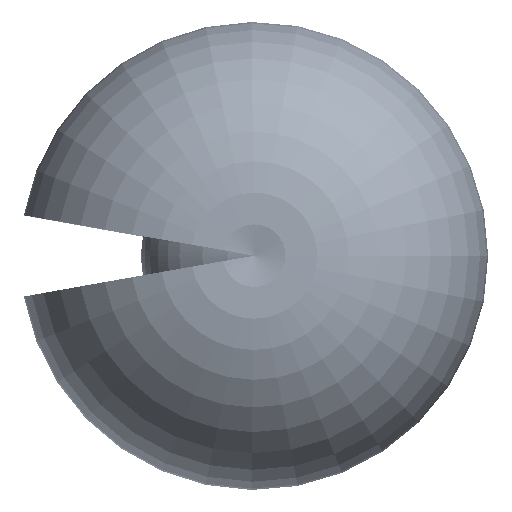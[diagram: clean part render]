
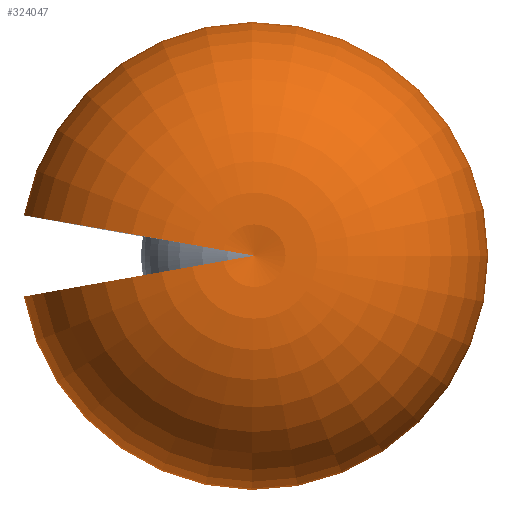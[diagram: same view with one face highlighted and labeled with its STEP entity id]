
A CAD part, top view. The second image highlights one B-rep face of the part: STEP entity #324047.
In plain terms, the highlighted toroidal (fillet/blend) face has major radius 690 mm and minor radius 2815.01 mm.
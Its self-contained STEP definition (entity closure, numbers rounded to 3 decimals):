
#3546 = VERTEX_POINT ( 'NONE', #183626 ) ;
#36858 = CIRCLE ( 'NONE', #200007, 1652.79 ) ;
#37050 = CARTESIAN_POINT ( 'NONE',  ( -679.517, -119.817, 530. ) ) ;
#37789 = AXIS2_PLACEMENT_3D ( 'NONE', #37050, #41858, #260671 ) ;
#41858 = DIRECTION ( 'NONE',  ( -0.174, 0.985, 0. ) ) ;
#52044 = DIRECTION ( 'NONE',  ( -1., 0., 0. ) ) ;
#58829 = DIRECTION ( 'NONE',  ( 0., 0., -1. ) ) ;
#83794 = DIRECTION ( 'NONE',  ( 0., 0., -1. ) ) ;
#135766 = EDGE_CURVE ( 'NONE', #195172, #447123, #36858, .T. ) ;
#183626 = CARTESIAN_POINT ( 'NONE',  ( 0., 0., 3259.135 ) ) ;
#184467 = EDGE_LOOP ( 'NONE', ( #260696, #438405, #246665 ) ) ;
#195172 = VERTEX_POINT ( 'NONE', #422356 ) ;
#200007 = AXIS2_PLACEMENT_3D ( 'NONE', #421617, #83794, #52044 ) ;
#204768 = CARTESIAN_POINT ( 'NONE',  ( 0., 0., 530. ) ) ;
#230892 = DIRECTION ( 'NONE',  ( 0.174, 0.985, 0. ) ) ;
#236488 = FACE_OUTER_BOUND ( 'NONE', #184467, .T. ) ;
#245482 = AXIS2_PLACEMENT_3D ( 'NONE', #204768, #58829, #460191 ) ;
#246665 = ORIENTED_EDGE ( 'NONE', *, *, #135766, .F. ) ;
#260671 = DIRECTION ( 'NONE',  ( 0., 0., 1. ) ) ;
#260696 = ORIENTED_EDGE ( 'NONE', *, *, #438139, .T. ) ;
#277836 = AXIS2_PLACEMENT_3D ( 'NONE', #299017, #230892, #444991 ) ;
#299017 = CARTESIAN_POINT ( 'NONE',  ( -679.517, 119.817, 530. ) ) ;
#299721 = TOROIDAL_SURFACE ( 'NONE', #245482, 690., 2815.01 ) ;
#324047 = ADVANCED_FACE ( 'NONE', ( #236488 ), #299721, .T. ) ;
#367797 = CARTESIAN_POINT ( 'NONE',  ( -1627.68, -287.004, -2115.244 ) ) ;
#421617 = CARTESIAN_POINT ( 'NONE',  ( 0., 0., -2115.244 ) ) ;
#422356 = CARTESIAN_POINT ( 'NONE',  ( -1627.68, 287.004, -2115.244 ) ) ;
#438139 = EDGE_CURVE ( 'NONE', #195172, #3546, #447651, .T. ) ;
#438405 = ORIENTED_EDGE ( 'NONE', *, *, #469775, .F. ) ;
#444991 = DIRECTION ( 'NONE',  ( 0., 0., 1. ) ) ;
#447123 = VERTEX_POINT ( 'NONE', #367797 ) ;
#447651 = CIRCLE ( 'NONE', #277836, 2815.01 ) ;
#457152 = CIRCLE ( 'NONE', #37789, 2815.01 ) ;
#460191 = DIRECTION ( 'NONE',  ( -1., 0., 0. ) ) ;
#469775 = EDGE_CURVE ( 'NONE', #447123, #3546, #457152, .T. ) ;
